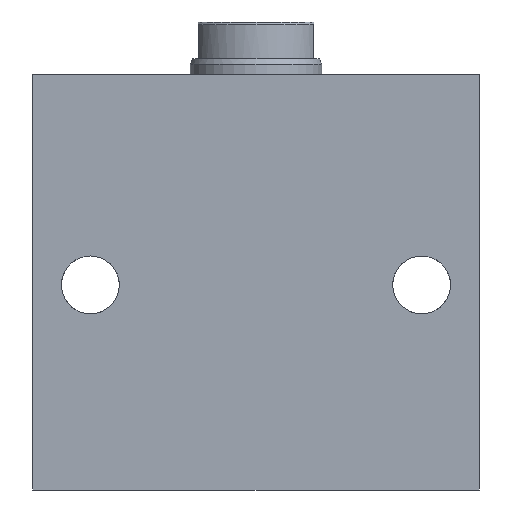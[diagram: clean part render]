
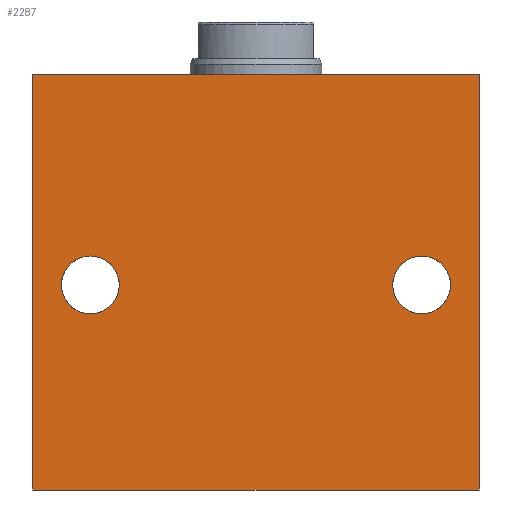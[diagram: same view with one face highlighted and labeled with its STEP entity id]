
A CAD part, front view. The second image highlights one B-rep face of the part: STEP entity #2287.
In plain terms, the highlighted planar face has unit normal (0, -1, 0).
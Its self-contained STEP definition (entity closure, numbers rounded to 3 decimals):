
#14 = AXIS2_PLACEMENT_3D ( 'NONE', #212, #210, #249 ) ;
#35 = AXIS2_PLACEMENT_3D ( 'NONE', #314, #311, #309 ) ;
#126 = CARTESIAN_POINT ( 'NONE',  ( 31.5, -31.5, 33.5 ) ) ;
#147 = CARTESIAN_POINT ( 'NONE',  ( -31.5, -31.5, 33.5 ) ) ;
#165 = CARTESIAN_POINT ( 'NONE',  ( 31.5, -31.5, 44.5 ) ) ;
#198 = CARTESIAN_POINT ( 'NONE',  ( -42.5, -31.5, 0. ) ) ;
#210 = DIRECTION ( 'NONE',  ( 0., 1., 0. ) ) ;
#212 = CARTESIAN_POINT ( 'NONE',  ( 31.5, -31.5, 39. ) ) ;
#249 = DIRECTION ( 'NONE',  ( 0., 0., 1. ) ) ;
#309 = DIRECTION ( 'NONE',  ( 0., 0., 1. ) ) ;
#311 = DIRECTION ( 'NONE',  ( 0., 1., 0. ) ) ;
#314 = CARTESIAN_POINT ( 'NONE',  ( -31.5, -31.5, 39. ) ) ;
#444 = FACE_BOUND ( 'NONE', #937, .T. ) ;
#447 = FACE_OUTER_BOUND ( 'NONE', #897, .T. ) ;
#448 = FACE_BOUND ( 'NONE', #900, .T. ) ;
#496 = VECTOR ( 'NONE', #1777, 1000. ) ;
#500 = LINE ( 'NONE', #1782, #496 ) ;
#539 = VECTOR ( 'NONE', #1776, 1000. ) ;
#541 = LINE ( 'NONE', #1740, #539 ) ;
#558 = VERTEX_POINT ( 'NONE', #198 ) ;
#639 = ORIENTED_EDGE ( 'NONE', *, *, #1320, .T. ) ;
#640 = ORIENTED_EDGE ( 'NONE', *, *, #2390, .F. ) ;
#641 = ORIENTED_EDGE ( 'NONE', *, *, #1356, .F. ) ;
#642 = ORIENTED_EDGE ( 'NONE', *, *, #2388, .T. ) ;
#643 = ORIENTED_EDGE ( 'NONE', *, *, #2462, .T. ) ;
#644 = ORIENTED_EDGE ( 'NONE', *, *, #2386, .T. ) ;
#645 = ORIENTED_EDGE ( 'NONE', *, *, #2439, .T. ) ;
#646 = ORIENTED_EDGE ( 'NONE', *, *, #2385, .T. ) ;
#797 = VERTEX_POINT ( 'NONE', #165 ) ;
#815 = VERTEX_POINT ( 'NONE', #147 ) ;
#838 = VERTEX_POINT ( 'NONE', #126 ) ;
#851 = VERTEX_POINT ( 'NONE', #1849 ) ;
#854 = VERTEX_POINT ( 'NONE', #1841 ) ;
#859 = VERTEX_POINT ( 'NONE', #1831 ) ;
#865 = VERTEX_POINT ( 'NONE', #1812 ) ;
#897 = EDGE_LOOP ( 'NONE', ( #642, #641, #640, #639 ) ) ;
#900 = EDGE_LOOP ( 'NONE', ( #646, #645 ) ) ;
#937 = EDGE_LOOP ( 'NONE', ( #644, #643 ) ) ;
#1149 = DIRECTION ( 'NONE',  ( 1., 0., 0. ) ) ;
#1150 = CARTESIAN_POINT ( 'NONE',  ( -42.5, -31.5, 79. ) ) ;
#1154 = DIRECTION ( 'NONE',  ( 1., 0., 0. ) ) ;
#1155 = DIRECTION ( 'NONE',  ( 0., 0., 1. ) ) ;
#1156 = DIRECTION ( 'NONE',  ( 0., 1., 0. ) ) ;
#1157 = CARTESIAN_POINT ( 'NONE',  ( 31.5, -31.5, 39. ) ) ;
#1160 = CARTESIAN_POINT ( 'NONE',  ( -42.5, -31.5, 0. ) ) ;
#1161 = DIRECTION ( 'NONE',  ( 0., 0., 1. ) ) ;
#1162 = DIRECTION ( 'NONE',  ( 0., 1., 0. ) ) ;
#1163 = CARTESIAN_POINT ( 'NONE',  ( -31.5, -31.5, 39. ) ) ;
#1191 = AXIS2_PLACEMENT_3D ( 'NONE', #1157, #1156, #1155 ) ;
#1193 = AXIS2_PLACEMENT_3D ( 'NONE', #1163, #1162, #1161 ) ;
#1279 = AXIS2_PLACEMENT_3D ( 'NONE', #1671, #1682, #1665 ) ;
#1320 = EDGE_CURVE ( 'NONE', #859, #558, #541, .T. ) ;
#1356 = EDGE_CURVE ( 'NONE', #851, #854, #500, .T. ) ;
#1665 = DIRECTION ( 'NONE',  ( 0., 0., 1. ) ) ;
#1667 = PLANE ( 'NONE',  #1279 ) ;
#1671 = CARTESIAN_POINT ( 'NONE',  ( -42.5, -31.5, 79. ) ) ;
#1682 = DIRECTION ( 'NONE',  ( 0., 1., 0. ) ) ;
#1740 = CARTESIAN_POINT ( 'NONE',  ( -42.5, -31.5, 79. ) ) ;
#1776 = DIRECTION ( 'NONE',  ( 0., 0., -1. ) ) ;
#1777 = DIRECTION ( 'NONE',  ( 0., 0., -1. ) ) ;
#1782 = CARTESIAN_POINT ( 'NONE',  ( 42.5, -31.5, 79. ) ) ;
#1812 = CARTESIAN_POINT ( 'NONE',  ( -31.5, -31.5, 44.5 ) ) ;
#1831 = CARTESIAN_POINT ( 'NONE',  ( -42.5, -31.5, 79. ) ) ;
#1841 = CARTESIAN_POINT ( 'NONE',  ( 42.5, -31.5, 0. ) ) ;
#1849 = CARTESIAN_POINT ( 'NONE',  ( 42.5, -31.5, 79. ) ) ;
#2039 = CIRCLE ( 'NONE', #14, 5.5 ) ;
#2062 = CIRCLE ( 'NONE', #35, 5.5 ) ;
#2119 = VECTOR ( 'NONE', #1149, 1000. ) ;
#2122 = LINE ( 'NONE', #1150, #2119 ) ;
#2123 = VECTOR ( 'NONE', #1154, 1000. ) ;
#2127 = LINE ( 'NONE', #1160, #2123 ) ;
#2129 = CIRCLE ( 'NONE', #1193, 5.5 ) ;
#2135 = CIRCLE ( 'NONE', #1191, 5.5 ) ;
#2287 = ADVANCED_FACE ( 'NONE', ( #448, #444, #447 ), #1667, .F. ) ;
#2385 = EDGE_CURVE ( 'NONE', #865, #815, #2129, .T. ) ;
#2386 = EDGE_CURVE ( 'NONE', #797, #838, #2135, .T. ) ;
#2388 = EDGE_CURVE ( 'NONE', #558, #854, #2127, .T. ) ;
#2390 = EDGE_CURVE ( 'NONE', #859, #851, #2122, .T. ) ;
#2439 = EDGE_CURVE ( 'NONE', #815, #865, #2062, .T. ) ;
#2462 = EDGE_CURVE ( 'NONE', #838, #797, #2039, .T. ) ;
